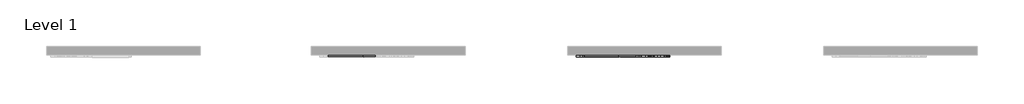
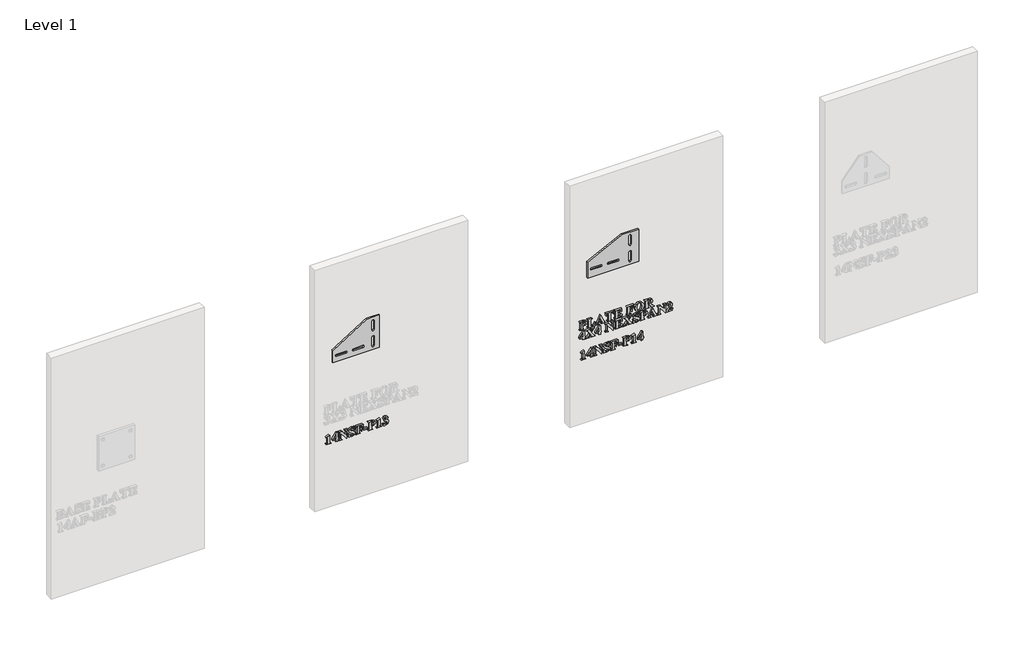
# One storey, part 14 of 21: 5 proxies.
"""IFC4 building model written with IfcOpenShell, lengths in millimetres."""

from ifc_helpers import new_model, si_unit, frame, origin, place, context, project, spatial, polyline, outline, extrude, transform, mapped, element, save
from components import generic_models_eda28171, generic_models_f6117c61

model = new_model("IFC4")

# Units and contexts
model_context = context("Model", 3, world=origin())
ifc_project = project(units=[si_unit("LENGTHUNIT", "METRE", prefix="MILLI")], contexts=[model_context])

# Site, building, storey
site = spatial("IfcSite", under=ifc_project)
building = spatial("IfcBuilding", under=site)
storey = spatial("IfcBuildingStorey", under=building, Name="Level 1", Elevation=0.0)

# Proxies
placement = place(None, origin())
element("IfcBuildingElementProxy", 1, Name="2\"\" Arial", ObjectType="2\"\" Arial", at=placement, inside=storey, context=model_context, shape_type="SweptSolid", body=[
    extrude(outline(polyline([(463.8692305, 20742.9409375), (455.0050049, 20723.1834097), (453.2321598, 20723.8482267), (454.4648412, 20728.4049926), (453.827725, 20730.4825455), (452.3111114, 20731.7152269), (447.9136245, 20732.0476353), (421.3209478, 20732.0476353), (415.2544934, 20731.5282471), (413.2046413, 20729.5407215), (412.4567222, 20723.1834097), (410.6838771, 20723.1834097), (410.6838771, 20751.5489316), (412.4567222, 20750.3162502), (413.273893, 20745.8425863), (415.3791466, 20744.0074146), (421.3209478, 20743.5711285), (463.8692305, 20742.9409375)])), frame((0.0, -15490.3579358, 0.0), z_axis=(0.0, 1.0, 0.0), x_axis=(0.0, 0.0, 1.0)), (0.0, 0.0, 1.0), 12.7),
    extrude(outline(polyline([(430.1851733, 20760.4131571), (422.2073703, 20760.4131571), (422.2073703, 20779.0280308), (410.6838771, 20779.0280308), (410.6838771, 20790.551524), (422.2073703, 20790.551524), (422.2073703, 20794.9836368), (430.1851733, 20794.9836368), (430.1851733, 20790.551524), (463.8692305, 20790.551524), (463.8692305, 20785.440744), (430.1851733, 20760.4131571)]), holes=[polyline([(430.1851733, 20763.1001255), (451.6116686, 20779.0280308), (430.1851733, 20779.0280308), (430.1851733, 20763.1001255)])]), frame((0.0, -15490.3579358, 0.0), z_axis=(0.0, 1.0, 0.0), x_axis=(0.0, 0.0, 1.0)), (0.0, 0.0, 1.0), 12.7),
    extrude(outline(polyline([(462.9828079, 20817.6151127), (462.9828079, 20799.194144), (461.2099628, 20799.194144), (460.6074725, 20802.8575622), (457.4565173, 20806.50713), (419.5481027, 20806.50713), (414.097989, 20804.9489654), (412.4567222, 20799.4157496), (410.6838771, 20799.4157496), (410.6838771, 20817.1442007), (412.4567222, 20816.0500229), (413.9179344, 20811.8741416), (419.5481027, 20810.0528203), (452.9551528, 20810.0528203), (409.7974546, 20843.8753809), (409.7974546, 20845.5097225), (452.3457373, 20845.5097225), (457.7820006, 20846.1676143), (460.0673087, 20848.002786), (461.2099628, 20852.601103), (462.9828079, 20852.601103), (462.9828079, 20834.8726518), (461.2099628, 20834.8726518), (458.9662057, 20840.7036502), (452.3457373, 20841.9640323), (431.9164674, 20841.9640323), (462.9828079, 20817.6151127)])), frame((0.0, -15490.3579358, 0.0), z_axis=(0.0, 1.0, 0.0), x_axis=(0.0, 0.0, 1.0)), (0.0, 0.0, 1.0), 12.7),
    extrude(outline(polyline([(463.8692305, 20893.3765406), (463.8692305, 20891.6036955), (460.9329558, 20890.4956673), (460.3235403, 20888.8613257), (461.5631468, 20885.100955), (463.259815, 20880.5511142), (463.8692305, 20875.4680349), (459.5409954, 20863.5359562), (449.0493534, 20858.8060609), (442.4427353, 20860.4404025), (437.0064719, 20865.1218216), (431.0992966, 20875.9666475), (427.0549937, 20883.7228449), (423.7863105, 20886.9846029), (420.2267699, 20888.0580052), (414.7905066, 20885.3918124), (412.4567222, 20878.224255), (416.771107, 20867.3725039), (429.2987508, 20860.578906), (429.2987508, 20858.8060609), (409.7974546, 20858.8060609), (409.7974546, 20860.578906), (412.4705726, 20862.4002273), (413.3431448, 20864.5401068), (412.4844229, 20867.6010347), (410.3583938, 20873.1481008), (409.7974546, 20877.8364451), (414.4788737, 20890.8973275), (425.6699585, 20896.0358082), (434.76964, 20893.4180916), (443.218355, 20880.7311688), (447.7058692, 20871.5899362), (451.2654098, 20867.6702864), (454.3263377, 20866.7838639), (459.1254848, 20869.2076756), (461.2099628, 20875.786593), (457.0756326, 20885.8003978), (446.1407794, 20891.6036955), (446.1407794, 20893.3765406), (463.8692305, 20893.3765406)])), frame((0.0, -15490.3579358, 0.0), z_axis=(0.0, 1.0, 0.0), x_axis=(0.0, 0.0, 1.0)), (0.0, 0.0, 1.0), 12.7),
    extrude(outline(polyline([(459.4371177, 20919.9692173), (459.4371177, 20924.40133), (458.8415526, 20932.9608478), (455.1296581, 20939.373561), (447.0272019, 20942.1297812), (447.0272019, 20943.9026263), (462.9828079, 20943.9026263), (462.9828079, 20900.467921), (461.2099628, 20900.467921), (461.2099628, 20902.1438137), (460.5035948, 20905.495599), (458.8484777, 20907.1507161), (454.1185824, 20907.5593015), (419.5481027, 20907.5593015), (414.963636, 20907.1576412), (413.2184916, 20905.6618032), (412.4567222, 20902.1438137), (412.4567222, 20900.467921), (410.6838771, 20900.467921), (410.6838771, 20927.0605977), (412.4567222, 20927.0605977), (412.4567222, 20925.3985554), (413.1630902, 20922.0536953), (414.8182073, 20920.391653), (419.5481027, 20919.9692173), (435.5037087, 20919.9692173), (435.5037087, 20921.7420624), (433.0868222, 20928.6533882), (423.0937929, 20932.379133), (423.0937929, 20934.1519782), (451.4593147, 20934.1519782), (451.4593147, 20932.379133), (444.0770768, 20930.5231858), (440.1989782, 20927.0398222), (439.0493989, 20921.7420624), (439.0493989, 20919.9692173), (459.4371177, 20919.9692173)])), frame((0.0, -15490.3579358, 0.0), z_axis=(0.0, 1.0, 0.0), x_axis=(0.0, 0.0, 1.0)), (0.0, 0.0, 1.0), 12.7),
    extrude(outline(polyline([(20969.6088804, -15490.3579358), (20947.4483165, -15490.3579358), (20947.4483165, -15477.6579358), (20969.6088804, -15477.6579358), (20969.6088804, -15490.3579358)])), frame((0.0, 0.0, 424.866638), z_axis=(0.0, 0.0, 1.0), x_axis=(1.0, 0.0, 0.0)), (0.0, 0.0, 1.0), 7.977803),
    extrude(outline(polyline([(434.6172861, 20993.5422894), (435.5314094, 21006.7970767), (440.427509, 21015.9313842), (449.0632037, 21019.2485436), (459.0077568, 21014.2000901), (462.9828079, 20997.5450413), (462.9828079, 20974.0409932), (461.2099628, 20974.0409932), (460.6074725, 20978.82629), (459.0008316, 20980.6199106), (454.1185824, 20981.1323736), (419.5481027, 20981.1323736), (414.6797038, 20980.6199106), (413.0730629, 20978.8470655), (412.4567222, 20974.0409932), (410.6838771, 20974.0409932), (410.6838771, 21000.6336699), (412.4567222, 21000.6336699), (413.0592126, 20995.8622235), (414.6658534, 20994.0547525), (419.5481027, 20993.5422894), (434.6172861, 20993.5422894)]), holes=[polyline([(460.3235403, 20993.5422894), (460.3235403, 20995.3289849), (457.5673201, 21003.9508293), (448.8831491, 21006.8386278), (440.0466243, 21003.9508293), (437.1934517, 20995.7306451), (437.2765538, 20993.5422894), (460.3235403, 20993.5422894)])]), frame((0.0, -15490.3579358, 0.0), z_axis=(0.0, 1.0, 0.0), x_axis=(0.0, 0.0, 1.0)), (0.0, 0.0, 1.0), 12.7),
    extrude(outline(polyline([(463.8692305, 21045.2110292), (455.0050049, 21025.4535015), (453.2321598, 21026.1183184), (454.4648412, 21030.6750843), (453.827725, 21032.7526372), (452.3111114, 21033.9853186), (447.9136245, 21034.317727), (421.3209478, 21034.317727), (415.2544934, 21033.7983388), (413.2046413, 21031.8108132), (412.4567222, 21025.4535015), (410.6838771, 21025.4535015), (410.6838771, 21053.8190233), (412.4567222, 21052.5863419), (413.273893, 21048.1126781), (415.3791466, 21046.2775064), (421.3209478, 21045.8412203), (463.8692305, 21045.2110292)])), frame((0.0, -15490.3579358, 0.0), z_axis=(0.0, 1.0, 0.0), x_axis=(0.0, 0.0, 1.0)), (0.0, 0.0, 1.0), 12.7),
    extrude(outline(polyline([(439.0493989, 21070.6610518), (432.8790669, 21082.5515794), (423.1214936, 21086.6166578), (417.3805225, 21084.5114043), (415.1159899, 21079.469876), (418.2323192, 21072.2122913), (421.6533562, 21067.7109268), (422.2073703, 21065.245564), (420.7184575, 21062.219262), (417.124291, 21060.9104037), (412.4013208, 21063.1680112), (409.7974546, 21073.1125642), (411.3123369, 21082.2884227), (415.8569837, 21089.4005787), (422.5657482, 21093.9608072), (430.5729832, 21095.4808834), (439.1186507, 21092.6415612), (444.8526966, 21084.4006015), (449.0562786, 21090.7856139), (454.0216299, 21092.8216157), (460.9191054, 21089.1858982), (463.8692305, 21079.9546383), (461.4246433, 21070.0031601), (453.6061193, 21063.5696714), (458.5506952, 21072.9602103), (456.1892101, 21078.9089367), (450.5313411, 21081.2981225), (445.8291464, 21080.0169649), (442.3804087, 21076.9768125), (439.0493989, 21070.6610518)])), frame((0.0, -15490.3579358, 0.0), z_axis=(0.0, 1.0, 0.0), x_axis=(0.0, 0.0, 1.0)), (0.0, 0.0, 1.0), 12.7),
])
element("IfcBuildingElementProxy", 2, Name="2\"\" Arial", ObjectType="2\"\" Arial", at=placement, inside=storey, context=model_context, shape_type="SweptSolid", body=[
    extrude(outline(polyline([(624.2127681, 22256.7890158), (625.1268914, 22270.043803), (630.022991, 22279.1781105), (638.6586857, 22282.4952699), (648.6032388, 22277.4468164), (652.5782899, 22260.7917676), (652.5782899, 22237.2877195), (650.8054448, 22237.2877195), (650.2029545, 22242.0730163), (648.5963136, 22243.8666369), (643.7140644, 22244.3791), (609.1435847, 22244.3791), (604.2751858, 22243.8666369), (602.6685449, 22242.0937918), (602.0522042, 22237.2877195), (600.2793591, 22237.2877195), (600.2793591, 22263.8803962), (602.0522042, 22263.8803962), (602.6546946, 22259.1089498), (604.2613354, 22257.3014788), (609.1435847, 22256.7890158), (624.2127681, 22256.7890158)]), holes=[polyline([(649.9190223, 22256.7890158), (649.9190223, 22258.5757112), (647.1628021, 22267.1975556), (638.4786311, 22270.0853541), (629.6421063, 22267.1975556), (626.7889337, 22258.9773714), (626.8720358, 22256.7890158), (649.9190223, 22256.7890158)])]), frame((0.0, -15490.3579358, 0.0), z_axis=(0.0, 1.0, 0.0), x_axis=(0.0, 0.0, 1.0)), (0.0, 0.0, 1.0), 12.7),
    extrude(outline(polyline([(619.7806553, 22333.9077782), (619.7806553, 22332.1349331), (610.1269597, 22328.3399365), (605.3416629, 22323.5892656), (603.8250493, 22316.7194908), (603.8250493, 22312.4120312), (604.1713081, 22307.7998638), (605.7848742, 22305.999318), (610.8333277, 22305.5422564), (643.7140644, 22305.5422564), (648.298531, 22305.9162159), (650.0436754, 22307.3289518), (650.8054448, 22310.597635), (650.8054448, 22312.6336368), (652.5782899, 22312.6336368), (652.5782899, 22286.0409601), (650.8054448, 22286.0409601), (650.8054448, 22287.7168528), (650.0990768, 22291.0686381), (648.4439597, 22292.7237552), (643.7140644, 22293.1323406), (609.1435847, 22293.1323406), (604.559118, 22292.7306804), (602.8139736, 22291.2348423), (602.0522042, 22287.7168528), (602.0522042, 22286.0409601), (600.2793591, 22286.0409601), (600.2793591, 22332.1349331), (619.7806553, 22333.9077782)])), frame((0.0, -15490.3579358, 0.0), z_axis=(0.0, 1.0, 0.0), x_axis=(0.0, 0.0, 1.0)), (0.0, 0.0, 1.0), 12.7),
    extrude(outline(polyline([(615.3485426, 22368.8660677), (608.7003734, 22371.7884921), (604.559118, 22373.1735273), (602.869375, 22372.3286558), (602.0522042, 22367.0101205), (600.2793591, 22367.0101205), (600.2793591, 22392.4116669), (602.0522042, 22392.4116669), (603.4095388, 22388.7136228), (610.9025794, 22384.28151), (653.4647125, 22364.6278599), (612.066009, 22345.8052309), (604.3375124, 22341.3384922), (602.0522042, 22336.7193997), (600.2793591, 22336.7193997), (600.2793591, 22354.4894019), (602.0522042, 22354.4894019), (602.9386268, 22349.3647715), (606.0272554, 22347.5919264), (610.0300072, 22348.6722539), (615.3485426, 22351.0822152), (615.3485426, 22368.8660677)]), holes=[polyline([(618.8942328, 22367.3148283), (618.8942328, 22352.6888561), (635.2376487, 22360.0987946), (618.8942328, 22367.3148283)])]), frame((0.0, -15490.3579358, 0.0), z_axis=(0.0, 1.0, 0.0), x_axis=(0.0, 0.0, 1.0)), (0.0, 0.0, 1.0), 12.7),
    extrude(outline(polyline([(652.5782899, 22442.05133), (652.5782899, 22395.9573571), (637.5091065, 22395.9573571), (637.5091065, 22397.7302022), (646.7195908, 22401.8299065), (649.0325997, 22409.2536955), (649.0325997, 22412.7993857), (609.1435847, 22412.7993857), (604.559118, 22412.3977255), (602.8139736, 22410.8741867), (602.0522042, 22407.3700475), (602.0522042, 22405.7080052), (600.2793591, 22405.7080052), (600.2793591, 22432.3006819), (602.0522042, 22432.3006819), (602.0522042, 22430.65249), (602.7585722, 22427.2868543), (604.4136893, 22425.6317372), (609.1435847, 22425.2093015), (649.0325997, 22425.2093015), (649.0325997, 22428.7549917), (648.3123814, 22433.6857172), (644.7874667, 22437.646918), (637.5091065, 22440.2784849), (637.5091065, 22442.05133), (652.5782899, 22442.05133)])), frame((0.0, -15490.3579358, 0.0), z_axis=(0.0, 1.0, 0.0), x_axis=(0.0, 0.0, 1.0)), (0.0, 0.0, 1.0), 12.7),
    extrude(outline(polyline([(649.0325997, 22466.8711616), (649.0325997, 22471.3032744), (648.3400821, 22479.3364788), (644.7320653, 22485.0289737), (636.6226839, 22488.145303), (636.6226839, 22489.9181481), (652.5782899, 22489.9181481), (652.5782899, 22447.3698654), (650.8054448, 22447.3698654), (650.8054448, 22449.045758), (649.7805187, 22452.896156), (647.827619, 22454.2811912), (643.7140644, 22454.4612458), (609.1435847, 22454.4612458), (604.559118, 22454.0595856), (602.8139736, 22452.5637475), (602.0522042, 22449.045758), (602.0522042, 22447.3698654), (600.2793591, 22447.3698654), (600.2793591, 22491.1785302), (616.8859317, 22492.1203541), (606.4427659, 22486.0054235), (602.9386268, 22474.6827604), (602.9386268, 22471.6633836), (603.5549675, 22468.5470543), (605.1339076, 22467.2243456), (610.4039667, 22466.8711616), (625.0991907, 22466.8711616), (624.0950401, 22471.878064), (620.1753904, 22474.9112912), (612.6892749, 22476.6218097), (612.6892749, 22478.3946548), (640.1683741, 22478.3946548), (640.1683741, 22476.6218097), (630.9024884, 22474.1148959), (627.7584584, 22466.8711616), (649.0325997, 22466.8711616)])), frame((0.0, -15490.3579358, 0.0), z_axis=(0.0, 1.0, 0.0), x_axis=(0.0, 0.0, 1.0)), (0.0, 0.0, 1.0), 12.7),
    extrude(outline(polyline([(649.0325997, 22538.6713887), (649.0325997, 22543.1035015), (648.4370346, 22551.6630193), (644.7251401, 22558.0757325), (636.6226839, 22560.8319526), (636.6226839, 22562.6047977), (652.5782899, 22562.6047977), (652.5782899, 22519.1700924), (650.8054448, 22519.1700924), (650.8054448, 22520.8459851), (650.0990768, 22524.1977704), (648.4439597, 22525.8528875), (643.7140644, 22526.2614729), (609.1435847, 22526.2614729), (604.559118, 22525.8598127), (602.8139736, 22524.3639746), (602.0522042, 22520.8459851), (602.0522042, 22519.1700924), (600.2793591, 22519.1700924), (600.2793591, 22545.7627691), (602.0522042, 22545.7627691), (602.0522042, 22544.1007268), (602.7585722, 22540.7558667), (604.4136893, 22539.0938244), (609.1435847, 22538.6713887), (625.0991907, 22538.6713887), (625.0991907, 22540.4442338), (622.6823042, 22547.3555597), (612.6892749, 22551.0813045), (612.6892749, 22552.8541496), (641.0547967, 22552.8541496), (641.0547967, 22551.0813045), (633.6725588, 22549.2253572), (629.7944602, 22545.7419936), (628.6448809, 22540.4442338), (628.6448809, 22538.6713887), (649.0325997, 22538.6713887)])), frame((0.0, -15490.3579358, 0.0), z_axis=(0.0, 1.0, 0.0), x_axis=(0.0, 0.0, 1.0)), (0.0, 0.0, 1.0), 12.7),
    extrude(outline(polyline([(653.4647125, 22595.0561735), (651.8788471, 22584.514324), (646.1794271, 22575.7695577), (637.4606302, 22569.8848892), (626.8166344, 22567.923333), (617.1733265, 22569.4295589), (608.9358294, 22573.9482364), (601.7786598, 22583.1656459), (599.3929366, 22595.5547862), (601.8929252, 22607.9127631), (609.392891, 22617.1197849), (626.8581854, 22622.8815315), (637.4969874, 22620.9494074), (646.2002026, 22615.1530349), (651.884041, 22606.2645712), (653.4647125, 22595.0561735)]), holes=[polyline([(650.8054448, 22595.5132351), (648.6863409, 22602.1267784), (641.4356814, 22606.8497486), (625.9440622, 22608.6987706), (611.8444034, 22606.8843745), (603.9774032, 22601.8151455), (602.0522042, 22595.4439833), (606.5120177, 22586.6213088), (626.2487699, 22582.1060939), (643.4924587, 22585.0285183), (648.9771983, 22589.4502433), (650.8054448, 22595.5132351)])]), frame((0.0, -15490.3579358, 0.0), z_axis=(0.0, 1.0, 0.0), x_axis=(0.0, 0.0, 1.0)), (0.0, 0.0, 1.0), 12.7),
    extrude(outline(polyline([(624.2127681, 22646.8149406), (624.2127681, 22650.249828), (600.2793591, 22667.0364551), (600.2793591, 22683.1582654), (602.0522042, 22683.1582654), (603.3956884, 22679.8895822), (607.7723998, 22676.7455522), (625.4592998, 22664.3356364), (628.9911397, 22671.2885133), (638.395529, 22675.1804624), (646.5326111, 22672.417317), (651.2902072, 22665.2843855), (652.5782899, 22651.4825093), (652.5782899, 22627.3136443), (650.8054448, 22627.3136443), (650.2029545, 22632.0989411), (648.5963136, 22633.8925617), (643.7140644, 22634.4050248), (609.1435847, 22634.4050248), (604.2751858, 22633.8925617), (602.6685449, 22632.1197166), (602.0522042, 22627.3136443), (600.2793591, 22627.3136443), (600.2793591, 22653.906321), (602.0522042, 22653.906321), (602.6546946, 22649.1210242), (604.2613354, 22647.3274036), (609.1435847, 22646.8149406), (624.2127681, 22646.8149406)]), holes=[polyline([(649.9190223, 22646.8149406), (649.9190223, 22650.9423456), (647.0450741, 22659.9727754), (638.160073, 22662.7705466), (631.4288018, 22661.2470078), (627.862336, 22657.0572762), (626.8720358, 22649.0171466), (626.8720358, 22646.8149406), (649.9190223, 22646.8149406)])]), frame((0.0, -15490.3579358, 0.0), z_axis=(0.0, 1.0, 0.0), x_axis=(0.0, 0.0, 1.0)), (0.0, 0.0, 1.0), 12.7),
    extrude(outline(polyline([(555.684317, 22238.1741421), (547.706514, 22238.1741421), (547.706514, 22256.7890158), (536.1830208, 22256.7890158), (536.1830208, 22268.312509), (547.706514, 22268.312509), (547.706514, 22272.7446218), (555.684317, 22272.7446218), (555.684317, 22268.312509), (589.3683741, 22268.312509), (589.3683741, 22263.2017289), (555.684317, 22238.1741421)]), holes=[polyline([(555.684317, 22240.8611105), (577.1108122, 22256.7890158), (555.684317, 22256.7890158), (555.684317, 22240.8611105)])]), frame((0.0, -15490.3579358, 0.0), z_axis=(0.0, 1.0, 0.0), x_axis=(0.0, 0.0, 1.0)), (0.0, 0.0, 1.0), 12.7),
    extrude(outline(polyline([(566.5845444, 22308.5062318), (578.4681468, 22317.9937232), (584.2021927, 22323.0075508), (586.1481672, 22325.9715262), (586.7091065, 22329.6280193), (588.4819516, 22329.6280193), (588.4819516, 22310.1959748), (586.7091065, 22310.1959748), (586.2243441, 22313.6585629), (584.88086, 22315.3760066), (583.0110624, 22315.9715718), (575.9473826, 22311.7333639), (569.5069687, 22306.5810328), (579.146814, 22300.2514217), (584.3406962, 22297.3289974), (586.0304392, 22298.2154199), (586.7091065, 22302.6336823), (588.4819516, 22302.6336823), (588.4819516, 22277.0936324), (586.7091065, 22277.0936324), (585.9334867, 22279.8637029), (584.2021927, 22281.8997047), (579.0775623, 22285.6392999), (559.4377625, 22298.5478284), (546.8616425, 22288.4786222), (539.7425613, 22281.2764389), (537.9558659, 22275.8886518), (536.1830208, 22275.8886518), (536.1830208, 22296.2348195), (537.9558659, 22296.2348195), (538.1774715, 22292.9245853), (539.4655543, 22290.1891407), (541.4046036, 22289.2680922), (547.000146, 22292.8414832), (556.5291885, 22300.459177), (545.781315, 22307.5228568), (540.4627797, 22310.4868322), (538.8422884, 22309.6004096), (537.9558659, 22305.6807599), (536.1830208, 22305.6807599), (536.1830208, 22330.9715034), (537.9558659, 22330.9715034), (539.2993501, 22327.3704118), (545.6428115, 22322.2596318), (566.5845444, 22308.5062318)])), frame((0.0, -15490.3579358, 0.0), z_axis=(0.0, 1.0, 0.0), x_axis=(0.0, 0.0, 1.0)), (0.0, 0.0, 1.0), 12.7),
    extrude(outline(polyline([(555.684317, 22333.9077782), (547.706514, 22333.9077782), (547.706514, 22352.5226518), (536.1830208, 22352.5226518), (536.1830208, 22364.0461451), (547.706514, 22364.0461451), (547.706514, 22368.4782579), (555.684317, 22368.4782579), (555.684317, 22364.0461451), (589.3683741, 22364.0461451), (589.3683741, 22358.935365), (555.684317, 22333.9077782)]), holes=[polyline([(555.684317, 22336.5947465), (577.1108122, 22352.5226518), (555.684317, 22352.5226518), (555.684317, 22336.5947465)])]), frame((0.0, -15490.3579358, 0.0), z_axis=(0.0, 1.0, 0.0), x_axis=(0.0, 0.0, 1.0)), (0.0, 0.0, 1.0), 12.7),
    extrude(outline(polyline([(588.4819516, 22410.61103), (588.4819516, 22392.1900612), (586.7091065, 22392.1900612), (586.1066161, 22395.8534795), (582.955661, 22399.5030473), (545.0472463, 22399.5030473), (539.5971326, 22397.9448827), (537.9558659, 22392.4116669), (536.1830208, 22392.4116669), (536.1830208, 22410.140118), (537.9558659, 22409.0459402), (539.4170781, 22404.8700589), (545.0472463, 22403.0487376), (578.4542964, 22403.0487376), (535.2965982, 22436.8712982), (535.2965982, 22438.5056398), (577.8448809, 22438.5056398), (583.2811442, 22439.1635316), (585.5664524, 22440.9987033), (586.7091065, 22445.5970203), (588.4819516, 22445.5970203), (588.4819516, 22427.8685691), (586.7091065, 22427.8685691), (584.4653494, 22433.6995675), (577.8448809, 22434.9599496), (557.4156111, 22434.9599496), (588.4819516, 22410.61103)])), frame((0.0, -15490.3579358, 0.0), z_axis=(0.0, 1.0, 0.0), x_axis=(0.0, 0.0, 1.0)), (0.0, 0.0, 1.0), 12.7),
    extrude(outline(polyline([(584.9362614, 22469.5304293), (584.9362614, 22473.9625421), (584.2437437, 22481.9957465), (580.6357269, 22487.6882413), (572.5263456, 22490.8045706), (572.5263456, 22492.5774157), (588.4819516, 22492.5774157), (588.4819516, 22450.029133), (586.7091065, 22450.029133), (586.7091065, 22451.7050257), (585.6841804, 22455.5554237), (583.7312807, 22456.9404589), (579.617726, 22457.1205135), (545.0472463, 22457.1205135), (540.4627797, 22456.7188533), (538.7176353, 22455.2230152), (537.9558659, 22451.7050257), (537.9558659, 22450.029133), (536.1830208, 22450.029133), (536.1830208, 22493.8377978), (552.7895933, 22494.7796218), (542.3464276, 22488.6646912), (538.8422884, 22477.3420281), (538.8422884, 22474.3226512), (539.4586291, 22471.2063219), (541.0375693, 22469.8836133), (546.3076284, 22469.5304293), (561.0028523, 22469.5304293), (559.9987018, 22474.5373317), (556.079052, 22477.5705589), (548.5929366, 22479.2810774), (548.5929366, 22481.0539225), (576.0720358, 22481.0539225), (576.0720358, 22479.2810774), (566.80615, 22476.7741636), (563.66212, 22469.5304293), (584.9362614, 22469.5304293)])), frame((0.0, -15490.3579358, 0.0), z_axis=(0.0, 1.0, 0.0), x_axis=(0.0, 0.0, 1.0)), (0.0, 0.0, 1.0), 12.7),
    extrude(outline(polyline([(566.5845444, 22532.7711385), (578.4681468, 22542.25863), (584.2021927, 22547.2724575), (586.1481672, 22550.236433), (586.7091065, 22553.892926), (588.4819516, 22553.892926), (588.4819516, 22534.4608815), (586.7091065, 22534.4608815), (586.2243441, 22537.9234696), (584.88086, 22539.6409134), (583.0110624, 22540.2364785), (575.9473826, 22535.9982707), (569.5069687, 22530.8459395), (579.146814, 22524.5163285), (584.3406962, 22521.5939041), (586.0304392, 22522.4803267), (586.7091065, 22526.8985891), (588.4819516, 22526.8985891), (588.4819516, 22501.3585392), (586.7091065, 22501.3585392), (585.9334867, 22504.1286097), (584.2021927, 22506.1646115), (579.0775623, 22509.9042067), (559.4377625, 22522.8127351), (546.8616425, 22512.7435289), (539.7425613, 22505.5413456), (537.9558659, 22500.1535585), (536.1830208, 22500.1535585), (536.1830208, 22520.4997263), (537.9558659, 22520.4997263), (538.1774715, 22517.189492), (539.4655543, 22514.4540474), (541.4046036, 22513.532999), (547.000146, 22517.1063899), (556.5291885, 22524.7240838), (545.781315, 22531.7877635), (540.4627797, 22534.7517389), (538.8422884, 22533.8653164), (537.9558659, 22529.9456666), (536.1830208, 22529.9456666), (536.1830208, 22555.2364102), (537.9558659, 22555.2364102), (539.2993501, 22551.6353186), (545.6428115, 22546.5245385), (566.5845444, 22532.7711385)])), frame((0.0, -15490.3579358, 0.0), z_axis=(0.0, 1.0, 0.0), x_axis=(0.0, 0.0, 1.0)), (0.0, 0.0, 1.0), 12.7),
    extrude(outline(polyline([(589.3683741, 22594.5160097), (589.3683741, 22592.7431646), (586.4320994, 22591.6351364), (585.8226839, 22590.0007948), (587.0622905, 22586.2404241), (588.7589586, 22581.6905834), (589.3683741, 22576.607504), (585.040139, 22564.6754254), (574.548497, 22559.94553), (567.9418789, 22561.5798716), (562.5056156, 22566.2612907), (556.5984403, 22577.1061167), (552.5541373, 22584.8623141), (549.2854542, 22588.1240721), (545.7259136, 22589.1974744), (540.2896503, 22586.5312815), (537.9558659, 22579.3637242), (542.2702507, 22568.511973), (554.7978944, 22561.7183751), (554.7978944, 22559.94553), (535.2965982, 22559.94553), (535.2965982, 22561.7183751), (537.9697162, 22563.5396965), (538.8422884, 22565.6795759), (537.9835666, 22568.7405038), (535.8575375, 22574.28757), (535.2965982, 22578.9759143), (539.9780173, 22592.0367966), (551.1691021, 22597.1752774), (560.2687837, 22594.5575608), (568.7174987, 22581.8706379), (573.2050128, 22572.7294053), (576.7645534, 22568.8097556), (579.8254813, 22567.923333), (584.6246284, 22570.3471447), (586.7091065, 22576.9260621), (582.5747763, 22586.9398669), (571.639923, 22592.7431646), (571.639923, 22594.5160097), (589.3683741, 22594.5160097)])), frame((0.0, -15490.3579358, 0.0), z_axis=(0.0, 1.0, 0.0), x_axis=(0.0, 0.0, 1.0)), (0.0, 0.0, 1.0), 12.7),
    extrude(outline(polyline([(560.1164298, 22620.2222639), (561.030553, 22633.4770512), (565.9266526, 22642.6113586), (574.5623474, 22645.928518), (584.5069004, 22640.8800645), (588.4819516, 22624.2250157), (588.4819516, 22600.7209676), (586.7091065, 22600.7209676), (586.1066161, 22605.5062644), (584.4999753, 22607.299885), (579.617726, 22607.8123481), (545.0472463, 22607.8123481), (540.1788474, 22607.299885), (538.5722066, 22605.5270399), (537.9558659, 22600.7209676), (536.1830208, 22600.7209676), (536.1830208, 22627.3136443), (537.9558659, 22627.3136443), (538.5583562, 22622.5421979), (540.1649971, 22620.7347269), (545.0472463, 22620.2222639), (560.1164298, 22620.2222639)]), holes=[polyline([(585.8226839, 22620.2222639), (585.8226839, 22622.0089593), (583.0664638, 22630.6308037), (574.3822928, 22633.5186022), (565.5457679, 22630.6308037), (562.6925953, 22622.4106195), (562.7756975, 22620.2222639), (585.8226839, 22620.2222639)])]), frame((0.0, -15490.3579358, 0.0), z_axis=(0.0, 1.0, 0.0), x_axis=(0.0, 0.0, 1.0)), (0.0, 0.0, 1.0), 12.7),
    extrude(outline(polyline([(551.2522042, 22680.000385), (544.604035, 22682.9228094), (540.4627797, 22684.3078446), (538.7730367, 22683.4629731), (537.9558659, 22678.1444378), (536.1830208, 22678.1444378), (536.1830208, 22703.5459842), (537.9558659, 22703.5459842), (539.3132004, 22699.8479401), (546.8062411, 22695.4158273), (589.3683741, 22675.7621772), (547.9696707, 22656.9395482), (540.241174, 22652.4728095), (537.9558659, 22647.853717), (536.1830208, 22647.853717), (536.1830208, 22665.6237192), (537.9558659, 22665.6237192), (538.8422884, 22660.4990888), (541.930917, 22658.7262437), (545.9336689, 22659.8065711), (551.2522042, 22662.2165325), (551.2522042, 22680.000385)]), holes=[polyline([(554.7978944, 22678.4491455), (554.7978944, 22663.8231734), (571.1413103, 22671.2331119), (554.7978944, 22678.4491455)])]), frame((0.0, -15490.3579358, 0.0), z_axis=(0.0, 1.0, 0.0), x_axis=(0.0, 0.0, 1.0)), (0.0, 0.0, 1.0), 12.7),
    extrude(outline(polyline([(588.4819516, 22723.5181924), (588.4819516, 22705.0972236), (586.7091065, 22705.0972236), (586.1066161, 22708.7606419), (582.955661, 22712.4102097), (545.0472463, 22712.4102097), (539.5971326, 22710.8520451), (537.9558659, 22705.3188293), (536.1830208, 22705.3188293), (536.1830208, 22723.0472804), (537.9558659, 22721.9531026), (539.4170781, 22717.7772213), (545.0472463, 22715.9558999), (578.4542964, 22715.9558999), (535.2965982, 22749.7784606), (535.2965982, 22751.4128022), (577.8448809, 22751.4128022), (583.2811442, 22752.0706939), (585.5664524, 22753.9058656), (586.7091065, 22758.5041827), (588.4819516, 22758.5041827), (588.4819516, 22740.7757315), (586.7091065, 22740.7757315), (584.4653494, 22746.6067299), (577.8448809, 22747.867112), (557.4156111, 22747.867112), (588.4819516, 22723.5181924)])), frame((0.0, -15490.3579358, 0.0), z_axis=(0.0, 1.0, 0.0), x_axis=(0.0, 0.0, 1.0)), (0.0, 0.0, 1.0), 12.7),
    extrude(outline(polyline([(536.1830208, 22792.5899), (551.2522042, 22794.2103913), (548.1635756, 22792.1120629), (547.1247992, 22790.076061), (546.8200914, 22784.7228998), (546.8200914, 22773.5595158), (566.3906394, 22790.2768912), (576.6260499, 22793.0746624), (582.5609259, 22791.1840892), (587.5470528, 22785.9555812), (589.3683741, 22778.5733433), (585.864235, 22768.5803141), (574.548497, 22763.5595613), (579.0152357, 22767.7285174), (580.5041486, 22773.3102094), (577.8241054, 22779.7852492), (571.0997593, 22782.4375917), (559.7286199, 22779.3351127), (536.1830208, 22761.1634503), (536.1830208, 22792.5899)])), frame((0.0, -15490.3579358, 0.0), z_axis=(0.0, 1.0, 0.0), x_axis=(0.0, 0.0, 1.0)), (0.0, 0.0, 1.0), 12.7),
])
element("IfcBuildingElementProxy", 3, Name="2\"\" Arial", ObjectType="2\"\" Arial", at=placement, inside=storey, context=model_context, shape_type="SweptSolid", body=[
    extrude(outline(polyline([(463.8692305, 22266.9409375), (455.0050049, 22247.1834097), (453.2321598, 22247.8482267), (454.4648412, 22252.4049926), (453.827725, 22254.4825455), (452.3111114, 22255.7152269), (447.9136245, 22256.0476353), (421.3209478, 22256.0476353), (415.2544934, 22255.5282471), (413.2046413, 22253.5407215), (412.4567222, 22247.1834097), (410.6838771, 22247.1834097), (410.6838771, 22275.5489316), (412.4567222, 22274.3162502), (413.273893, 22269.8425863), (415.3791466, 22268.0074146), (421.3209478, 22267.5711285), (463.8692305, 22266.9409375)])), frame((0.0, -15490.3579358, 0.0), z_axis=(0.0, 1.0, 0.0), x_axis=(0.0, 0.0, 1.0)), (0.0, 0.0, 1.0), 12.7),
    extrude(outline(polyline([(430.1851733, 22284.4131571), (422.2073703, 22284.4131571), (422.2073703, 22303.0280308), (410.6838771, 22303.0280308), (410.6838771, 22314.551524), (422.2073703, 22314.551524), (422.2073703, 22318.9836368), (430.1851733, 22318.9836368), (430.1851733, 22314.551524), (463.8692305, 22314.551524), (463.8692305, 22309.440744), (430.1851733, 22284.4131571)]), holes=[polyline([(430.1851733, 22287.1001255), (451.6116686, 22303.0280308), (430.1851733, 22303.0280308), (430.1851733, 22287.1001255)])]), frame((0.0, -15490.3579358, 0.0), z_axis=(0.0, 1.0, 0.0), x_axis=(0.0, 0.0, 1.0)), (0.0, 0.0, 1.0), 12.7),
    extrude(outline(polyline([(462.9828079, 22341.6151127), (462.9828079, 22323.194144), (461.2099628, 22323.194144), (460.6074725, 22326.8575622), (457.4565173, 22330.50713), (419.5481027, 22330.50713), (414.097989, 22328.9489654), (412.4567222, 22323.4157496), (410.6838771, 22323.4157496), (410.6838771, 22341.1442007), (412.4567222, 22340.0500229), (413.9179344, 22335.8741416), (419.5481027, 22334.0528203), (452.9551528, 22334.0528203), (409.7974546, 22367.8753809), (409.7974546, 22369.5097225), (452.3457373, 22369.5097225), (457.7820006, 22370.1676143), (460.0673087, 22372.002786), (461.2099628, 22376.601103), (462.9828079, 22376.601103), (462.9828079, 22358.8726518), (461.2099628, 22358.8726518), (458.9662057, 22364.7036502), (452.3457373, 22365.9640323), (431.9164674, 22365.9640323), (462.9828079, 22341.6151127)])), frame((0.0, -15490.3579358, 0.0), z_axis=(0.0, 1.0, 0.0), x_axis=(0.0, 0.0, 1.0)), (0.0, 0.0, 1.0), 12.7),
    extrude(outline(polyline([(463.8692305, 22417.3765406), (463.8692305, 22415.6036955), (460.9329558, 22414.4956673), (460.3235403, 22412.8613257), (461.5631468, 22409.100955), (463.259815, 22404.5511142), (463.8692305, 22399.4680349), (459.5409954, 22387.5359562), (449.0493534, 22382.8060609), (442.4427353, 22384.4404025), (437.0064719, 22389.1218216), (431.0992966, 22399.9666475), (427.0549937, 22407.7228449), (423.7863105, 22410.9846029), (420.2267699, 22412.0580052), (414.7905066, 22409.3918124), (412.4567222, 22402.224255), (416.771107, 22391.3725039), (429.2987508, 22384.578906), (429.2987508, 22382.8060609), (409.7974546, 22382.8060609), (409.7974546, 22384.578906), (412.4705726, 22386.4002273), (413.3431448, 22388.5401068), (412.4844229, 22391.6010347), (410.3583938, 22397.1481008), (409.7974546, 22401.8364451), (414.4788737, 22414.8973275), (425.6699585, 22420.0358082), (434.76964, 22417.4180916), (443.218355, 22404.7311688), (447.7058692, 22395.5899362), (451.2654098, 22391.6702864), (454.3263377, 22390.7838639), (459.1254848, 22393.2076756), (461.2099628, 22399.786593), (457.0756326, 22409.8003978), (446.1407794, 22415.6036955), (446.1407794, 22417.3765406), (463.8692305, 22417.3765406)])), frame((0.0, -15490.3579358, 0.0), z_axis=(0.0, 1.0, 0.0), x_axis=(0.0, 0.0, 1.0)), (0.0, 0.0, 1.0), 12.7),
    extrude(outline(polyline([(459.4371177, 22443.9692173), (459.4371177, 22448.40133), (458.8415526, 22456.9608478), (455.1296581, 22463.373561), (447.0272019, 22466.1297812), (447.0272019, 22467.9026263), (462.9828079, 22467.9026263), (462.9828079, 22424.467921), (461.2099628, 22424.467921), (461.2099628, 22426.1438137), (460.5035948, 22429.495599), (458.8484777, 22431.1507161), (454.1185824, 22431.5593015), (419.5481027, 22431.5593015), (414.963636, 22431.1576412), (413.2184916, 22429.6618032), (412.4567222, 22426.1438137), (412.4567222, 22424.467921), (410.6838771, 22424.467921), (410.6838771, 22451.0605977), (412.4567222, 22451.0605977), (412.4567222, 22449.3985554), (413.1630902, 22446.0536953), (414.8182073, 22444.391653), (419.5481027, 22443.9692173), (435.5037087, 22443.9692173), (435.5037087, 22445.7420624), (433.0868222, 22452.6533882), (423.0937929, 22456.379133), (423.0937929, 22458.1519782), (451.4593147, 22458.1519782), (451.4593147, 22456.379133), (444.0770768, 22454.5231858), (440.1989782, 22451.0398222), (439.0493989, 22445.7420624), (439.0493989, 22443.9692173), (459.4371177, 22443.9692173)])), frame((0.0, -15490.3579358, 0.0), z_axis=(0.0, 1.0, 0.0), x_axis=(0.0, 0.0, 1.0)), (0.0, 0.0, 1.0), 12.7),
    extrude(outline(polyline([(22493.6088804, -15490.3579358), (22471.4483165, -15490.3579358), (22471.4483165, -15477.6579358), (22493.6088804, -15477.6579358), (22493.6088804, -15490.3579358)])), frame((0.0, 0.0, 424.866638), z_axis=(0.0, 0.0, 1.0), x_axis=(1.0, 0.0, 0.0)), (0.0, 0.0, 1.0), 7.977803),
    extrude(outline(polyline([(434.6172861, 22517.5422894), (435.5314094, 22530.7970767), (440.427509, 22539.9313842), (449.0632037, 22543.2485436), (459.0077568, 22538.2000901), (462.9828079, 22521.5450413), (462.9828079, 22498.0409932), (461.2099628, 22498.0409932), (460.6074725, 22502.82629), (459.0008316, 22504.6199106), (454.1185824, 22505.1323736), (419.5481027, 22505.1323736), (414.6797038, 22504.6199106), (413.0730629, 22502.8470655), (412.4567222, 22498.0409932), (410.6838771, 22498.0409932), (410.6838771, 22524.6336699), (412.4567222, 22524.6336699), (413.0592126, 22519.8622235), (414.6658534, 22518.0547525), (419.5481027, 22517.5422894), (434.6172861, 22517.5422894)]), holes=[polyline([(460.3235403, 22517.5422894), (460.3235403, 22519.3289849), (457.5673201, 22527.9508293), (448.8831491, 22530.8386278), (440.0466243, 22527.9508293), (437.1934517, 22519.7306451), (437.2765538, 22517.5422894), (460.3235403, 22517.5422894)])]), frame((0.0, -15490.3579358, 0.0), z_axis=(0.0, 1.0, 0.0), x_axis=(0.0, 0.0, 1.0)), (0.0, 0.0, 1.0), 12.7),
    extrude(outline(polyline([(463.8692305, 22569.2110292), (455.0050049, 22549.4535015), (453.2321598, 22550.1183184), (454.4648412, 22554.6750843), (453.827725, 22556.7526372), (452.3111114, 22557.9853186), (447.9136245, 22558.317727), (421.3209478, 22558.317727), (415.2544934, 22557.7983388), (413.2046413, 22555.8108132), (412.4567222, 22549.4535015), (410.6838771, 22549.4535015), (410.6838771, 22577.8190233), (412.4567222, 22576.5863419), (413.273893, 22572.1126781), (415.3791466, 22570.2775064), (421.3209478, 22569.8412203), (463.8692305, 22569.2110292)])), frame((0.0, -15490.3579358, 0.0), z_axis=(0.0, 1.0, 0.0), x_axis=(0.0, 0.0, 1.0)), (0.0, 0.0, 1.0), 12.7),
    extrude(outline(polyline([(430.1851733, 22586.6832488), (422.2073703, 22586.6832488), (422.2073703, 22605.2981225), (410.6838771, 22605.2981225), (410.6838771, 22616.8216157), (422.2073703, 22616.8216157), (422.2073703, 22621.2537285), (430.1851733, 22621.2537285), (430.1851733, 22616.8216157), (463.8692305, 22616.8216157), (463.8692305, 22611.7108357), (430.1851733, 22586.6832488)]), holes=[polyline([(430.1851733, 22589.3702172), (451.6116686, 22605.2981225), (430.1851733, 22605.2981225), (430.1851733, 22589.3702172)])]), frame((0.0, -15490.3579358, 0.0), z_axis=(0.0, 1.0, 0.0), x_axis=(0.0, 0.0, 1.0)), (0.0, 0.0, 1.0), 12.7),
])
generic_models_shape = generic_models_eda28171(model_context)
element("IfcBuildingElementProxy", 4, Name="14NSF-P13 : 14NSF-P13", ObjectType="14NSF-P13 : 14NSF-P13", at=placement, inside=storey, context=model_context, shape_type="MappedRepresentation", body=[
    mapped(generic_models_shape, transform((20903.0187481, -15477.6579358, 914.4), x_axis=(1.0, 0.0, 0.0), y_axis=(0.0, 0.0, 1.0), z_axis=(0.0, -1.0, 0.0))),
])
generic_models_2_shape = generic_models_f6117c61(model_context)
element("IfcBuildingElementProxy", 5, Name="14NSF-P14 : 14NSF-P14", ObjectType="14NSF-P14 : 14NSF-P14", at=placement, inside=storey, context=model_context, shape_type="MappedRepresentation", body=[
    mapped(generic_models_2_shape, transform((22427.0187481, -15477.6579358, 914.4), x_axis=(1.0, 0.0, 0.0), y_axis=(0.0, 0.0, 1.0), z_axis=(0.0, -1.0, 0.0))),
])

save(model, "model.ifc")
